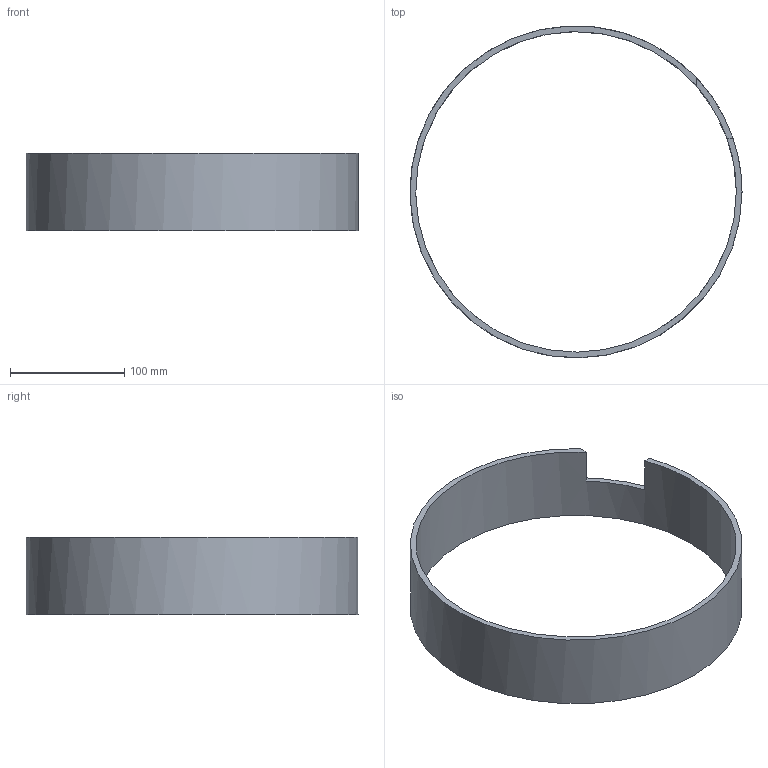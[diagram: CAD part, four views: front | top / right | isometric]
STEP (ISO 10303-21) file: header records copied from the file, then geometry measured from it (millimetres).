
FILE_DESCRIPTION(('Open CASCADE Model'),'2;1');
FILE_NAME('Open CASCADE Shape Model','2026-10-04T01:02:27',('Author'),( 'Open CASCADE'),'Open CASCADE STEP processor 8.0','Open CASCADE 8.0' ,'Unknown');
FILE_SCHEMA(('AUTOMOTIVE_DESIGN { 1 0 10303 214 1 1 1 1 }'));
Length unit declared in the file: millimetre
Products named in the file (1): Open CASCADE STEP translator 8.0 96
Bounding box: 290 x 290 x 68 mm (x, y, z)
Volume: 295447.9 mm3; surface area: 127527.5 mm2
Topology: 1 solids, 1 shells, 7 faces, 18 edges, 12 vertices
Faces by surface type: plane 5, cylinder 2
Full cylindrical faces by diameter (mm): 280 x1, 290 x1
Entity records: 456 total; most frequent: CARTESIAN_POINT 86, DIRECTION 66, ORIENTED_EDGE 36, PCURVE 36, DEFINITIONAL_REPRESENTATION 36, LINE 26, VECTOR 26, EDGE_CURVE 18
